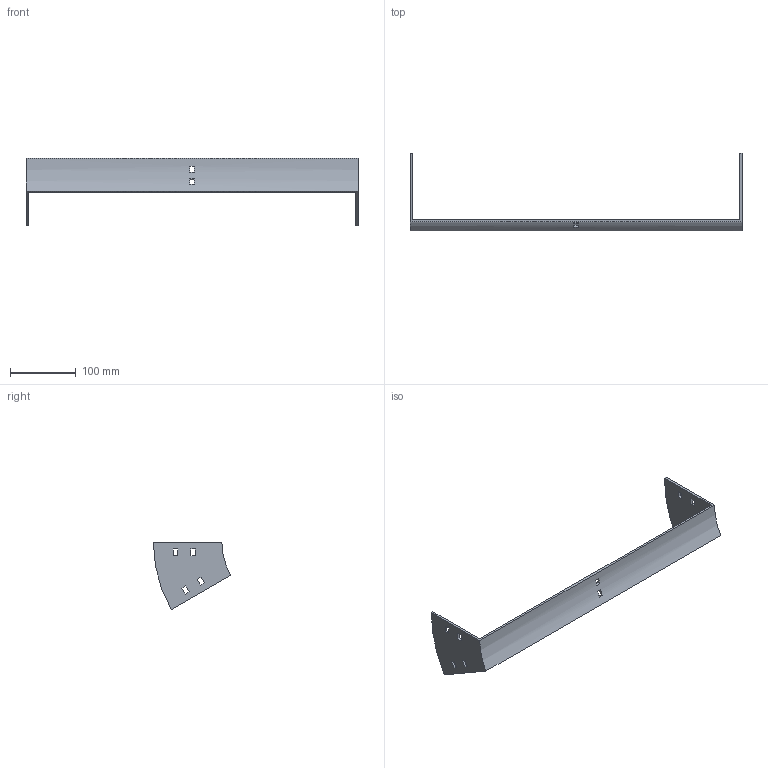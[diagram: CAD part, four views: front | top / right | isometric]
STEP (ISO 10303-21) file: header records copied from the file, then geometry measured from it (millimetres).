
FILE_DESCRIPTION (( 'STEP AP214' ), '1' );
FILE_NAME ('35B1D600.step', '2025-02-21T09:24:41', ( '' ), ( '' ), 'SwSTEP 2.0', 'SolidWorks 2023', '' );
FILE_SCHEMA (( 'AUTOMOTIVE_DESIGN' ));
Length unit declared in the file: millimetre
Products named in the file (1): 35B1D600
Bounding box: 504 x 117.4 x 102 mm (x, y, z)
Volume: 148238.1 mm3; surface area: 91555.8 mm2
Topology: 1 solids, 1 shells, 50 faces, 144 edges, 96 vertices
Faces by surface type: plane 46, cylinder 4
Entity records: 1687 total; most frequent: CARTESIAN_POINT 291, ORIENTED_EDGE 288, DIRECTION 262, EDGE_CURVE 144, LINE 128, VECTOR 128, VERTEX_POINT 96, EDGE_LOOP 70
